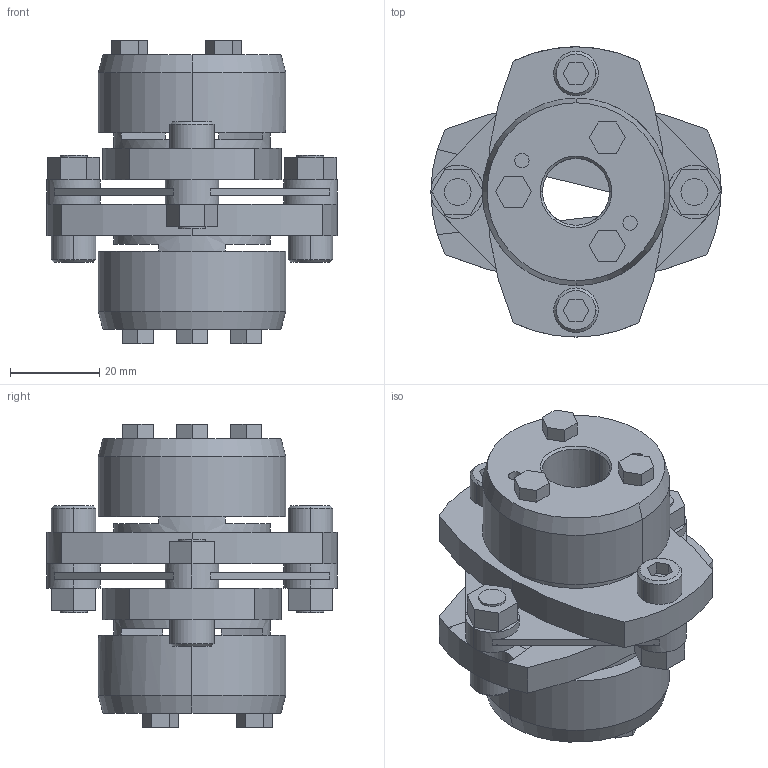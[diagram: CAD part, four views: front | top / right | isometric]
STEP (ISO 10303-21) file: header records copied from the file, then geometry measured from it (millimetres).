
FILE_DESCRIPTION((''),'2;1');
FILE_NAME('LCS-65T7-15×16.stp','2011-08-23T13:05:32',(''),(''),'AutoCAD STEP 2000i','AutoCAD 2000i',', , ');
FILE_SCHEMA(('CONFIG_CONTROL_DESIGN'));
Length unit declared in the file: millimetre
Products named in the file (5): LCS-65T7-15×15; 忣兜1; LC65T7-T015-1; LC65T7-T015; LCS65-ITA
Assembly tree (4 placements, depth 2):
  LCS-65T7-15×15
    忣兜1
    LC65T7-T015-1
    LC65T7-T015
    LCS65-ITA
Bounding box: 65 x 65 x 67.9 mm (x, y, z)
Volume: 82476.9 mm3; surface area: 28268 mm2
Topology: 1 solids, 1 shells, 220 faces, 564 edges, 368 vertices
Faces by surface type: plane 132, cylinder 68, cone 20
Entity records: 6879 total; most frequent: DIRECTION 1210, CARTESIAN_POINT 1157, ORIENTED_EDGE 1128, EDGE_CURVE 564, AXIS2_PLACEMENT_3D 421, VERTEX_POINT 368, VECTOR 368, LINE 368
